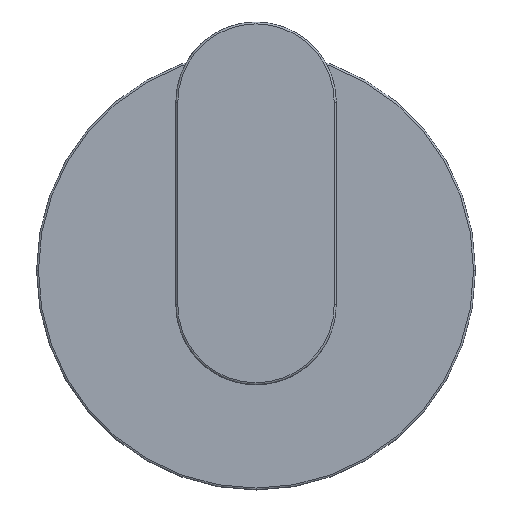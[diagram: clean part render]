
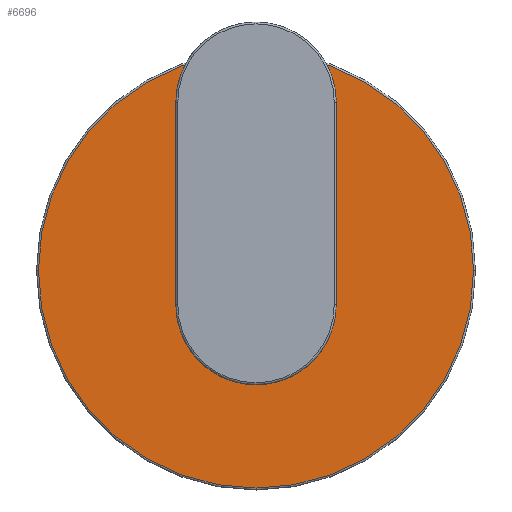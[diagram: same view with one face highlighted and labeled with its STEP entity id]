
A CAD part, top view. The second image highlights one B-rep face of the part: STEP entity #6696.
In plain terms, the highlighted planar face has unit normal (0, 0, 1).
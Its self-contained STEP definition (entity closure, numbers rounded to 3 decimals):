
#122=CARTESIAN_POINT('',(0.,0.,19.6));
#123=DIRECTION('',(0.,0.,1.));
#124=DIRECTION('',(-1.,0.,0.));
#125=AXIS2_PLACEMENT_3D('',#122,#123,#124);
#135=CARTESIAN_POINT('',(0.,9.,19.6));
#136=DIRECTION('',(0.,0.,1.));
#137=DIRECTION('',(1.,0.,0.));
#138=AXIS2_PLACEMENT_3D('',#135,#136,#137);
#140=CARTESIAN_POINT('',(0.,9.,19.6));
#141=DIRECTION('',(0.,0.,1.));
#142=DIRECTION('',(-1.,0.,0.));
#143=AXIS2_PLACEMENT_3D('',#140,#141,#142);
#183=CARTESIAN_POINT('',(0.,0.,19.6));
#184=DIRECTION('',(0.,0.,1.));
#185=DIRECTION('',(1.,0.,0.));
#186=AXIS2_PLACEMENT_3D('',#183,#184,#185);
#6135=CARTESIAN_POINT('',(57.,9.,19.6));
#6136=CARTESIAN_POINT('',(-57.,9.,19.6));
#6137=VERTEX_POINT('',#6135);
#6138=VERTEX_POINT('',#6136);
#6515=CARTESIAN_POINT('',(20.,0.,19.6));
#6516=CARTESIAN_POINT('',(-20.,0.,19.6));
#6517=VERTEX_POINT('',#6515);
#6518=VERTEX_POINT('',#6516);
#6680=CARTESIAN_POINT('',(0.,9.,19.6));
#6681=DIRECTION('',(0.,0.,1.));
#6682=DIRECTION('',(-1.,0.,0.));
#6683=AXIS2_PLACEMENT_3D('',#6680,#6681,#6682);
#6684=PLANE('',#6683);
#6686=ORIENTED_EDGE('',*,*,#6685,.F.);
#6688=ORIENTED_EDGE('',*,*,#6687,.F.);
#6689=EDGE_LOOP('',(#6686,#6688));
#6690=FACE_OUTER_BOUND('',#6689,.F.);
#6692=ORIENTED_EDGE('',*,*,#6691,.T.);
#6693=ORIENTED_EDGE('',*,*,#6670,.T.);
#6694=EDGE_LOOP('',(#6692,#6693));
#6695=FACE_BOUND('',#6694,.F.);
#6696=ADVANCED_FACE('',(#6690,#6695),#6684,.T.);
#126=CIRCLE('',#125,20.);
#139=CIRCLE('',#138,57.);
#144=CIRCLE('',#143,57.);
#187=CIRCLE('',#186,20.);
#6670=EDGE_CURVE('',#6518,#6517,#126,.T.);
#6685=EDGE_CURVE('',#6137,#6138,#139,.T.);
#6687=EDGE_CURVE('',#6138,#6137,#144,.T.);
#6691=EDGE_CURVE('',#6517,#6518,#187,.T.);
